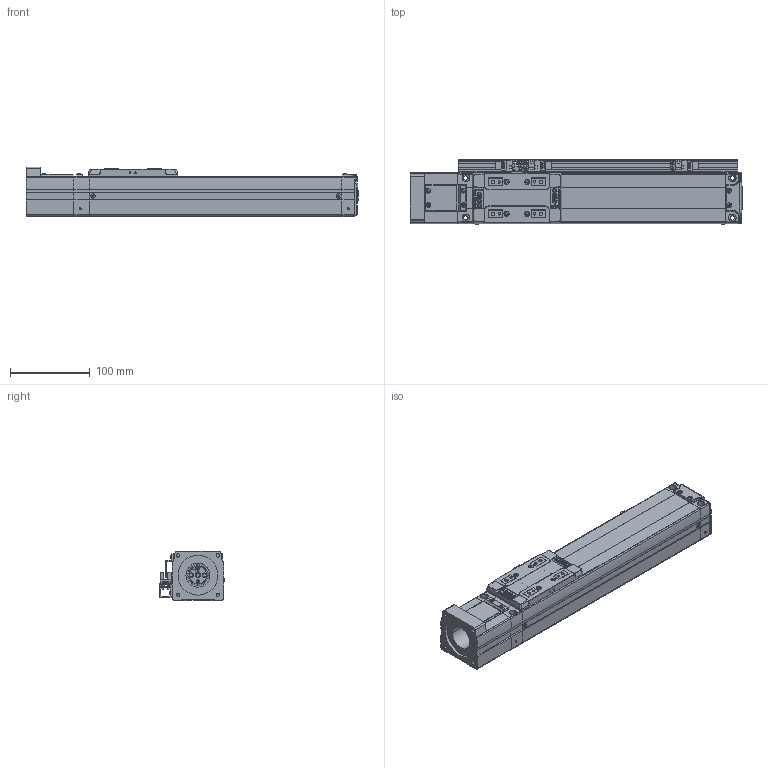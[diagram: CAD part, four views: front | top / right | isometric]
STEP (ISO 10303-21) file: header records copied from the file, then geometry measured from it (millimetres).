
FILE_DESCRIPTION(('STEP AP203'),'1');
FILE_NAME('Z:/Web/3D/SAN65/2012.ver/STP/200/SAN65ㅁㅁ-200S+3SL.stp','2014-06-13T05:57:12',(' '),(' '),'Spatial InterOp 3D',' ',' ');
FILE_SCHEMA(('CONFIG_CONTROL_DESIGN'));
Length unit declared in the file: millimetre
Products named in the file (74): 1; 2; 3; 4; 5; 6; 7; 8; 9; 10; 11; 12; 13; 14; 15; 16; 17; 18; 19; 20; 21; 22; 23; 24; 25; 26; 27; 28; 29; 30; 31; 32; 33; 34; 35; 36; 37; 38; 39; 40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
Bounding box: 416.15 x 82.06 x 62 mm (x, y, z)
Volume: 1361051.5 mm3; surface area: 245170.5 mm2
Topology: 74 solids, 74 shells, 2785 faces, 7321 edges, 4762 vertices
Faces by surface type: plane 1437, cylinder 928, cone 310, sphere 56, bspline 28, torus 20, extrusion 6
Full cylindrical faces by diameter (mm): 2.132 x1, 3.5 x2, 6 x2
Entity records: 93045 total; most frequent: CARTESIAN_POINT 18926, DIRECTION 15322, ORIENTED_EDGE 14510, EDGE_CURVE 7255, AXIS2_PLACEMENT_3D 5478, VERTEX_POINT 4761, VECTOR 4366, LINE 4360
